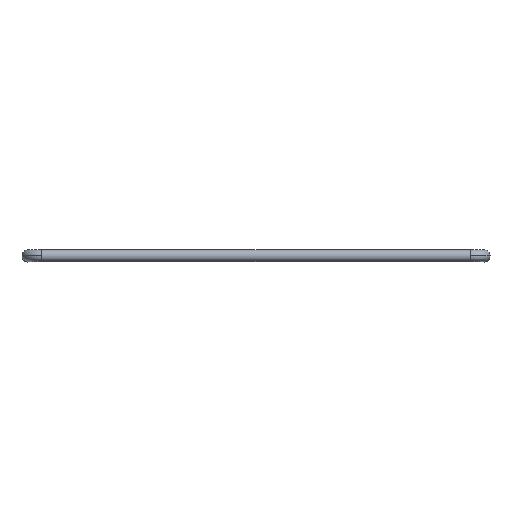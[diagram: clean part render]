
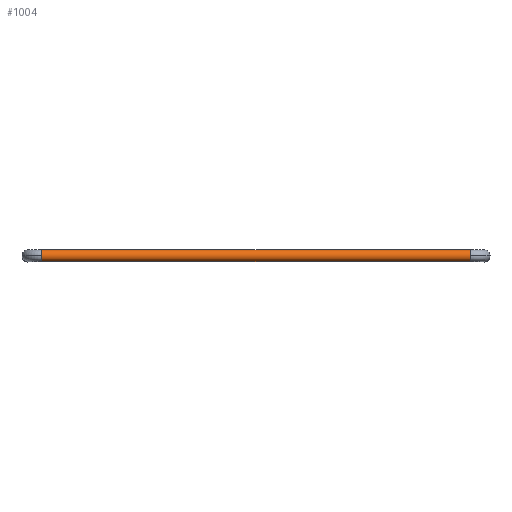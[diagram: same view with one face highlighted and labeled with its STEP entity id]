
A CAD part, top view. The second image highlights one B-rep face of the part: STEP entity #1004.
In plain terms, the highlighted cylindrical face has radius 24.15 mm (diameter 48.3 mm), a partial arc.
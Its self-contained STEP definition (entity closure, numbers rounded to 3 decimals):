
#2 = DIRECTION ( 'NONE',  ( 1., 0., 0. ) ) ;
#13 = FACE_OUTER_BOUND ( 'NONE', #947, .T. ) ;
#83 = CIRCLE ( 'NONE', #816, 24.15 ) ;
#89 = AXIS2_PLACEMENT_3D ( 'NONE', #902, #395, #470 ) ;
#95 = DIRECTION ( 'NONE',  ( 1., 0., 0. ) ) ;
#128 = VERTEX_POINT ( 'NONE', #526 ) ;
#164 = CARTESIAN_POINT ( 'NONE',  ( 10898., -71., 3495.85 ) ) ;
#191 = DIRECTION ( 'NONE',  ( 0., 1., 0. ) ) ;
#192 = ORIENTED_EDGE ( 'NONE', *, *, #410, .T. ) ;
#214 = AXIS2_PLACEMENT_3D ( 'NONE', #972, #95, #191 ) ;
#217 = VECTOR ( 'NONE', #2, 1000. ) ;
#219 = DIRECTION ( 'NONE',  ( 0., 1., 0. ) ) ;
#229 = VERTEX_POINT ( 'NONE', #293 ) ;
#230 = ORIENTED_EDGE ( 'NONE', *, *, #1128, .F. ) ;
#233 = CARTESIAN_POINT ( 'NONE',  ( 9122., -95.15, 3495.85 ) ) ;
#293 = CARTESIAN_POINT ( 'NONE',  ( 10898., -95.15, 3520. ) ) ;
#311 = CIRCLE ( 'NONE', #89, 24.15 ) ;
#320 = EDGE_CURVE ( 'NONE', #942, #128, #756, .T. ) ;
#343 = VECTOR ( 'NONE', #430, 1000. ) ;
#371 = LINE ( 'NONE', #786, #217 ) ;
#388 = EDGE_CURVE ( 'NONE', #128, #710, #480, .T. ) ;
#390 = VERTEX_POINT ( 'NONE', #164 ) ;
#395 = DIRECTION ( 'NONE',  ( 1., 0., 0. ) ) ;
#410 = EDGE_CURVE ( 'NONE', #485, #942, #452, .T. ) ;
#430 = DIRECTION ( 'NONE',  ( 1., 0., 0. ) ) ;
#447 = CYLINDRICAL_SURFACE ( 'NONE', #214, 24.15 ) ;
#452 = CIRCLE ( 'NONE', #653, 24.15 ) ;
#470 = DIRECTION ( 'NONE',  ( 0., 1., 0. ) ) ;
#479 = CARTESIAN_POINT ( 'NONE',  ( 10898., -95.15, 3495.85 ) ) ;
#480 = LINE ( 'NONE', #491, #343 ) ;
#485 = VERTEX_POINT ( 'NONE', #616 ) ;
#491 = CARTESIAN_POINT ( 'NONE',  ( 9122., -119.3, 3495.85 ) ) ;
#508 = CARTESIAN_POINT ( 'NONE',  ( 9122., -95.15, 3495.85 ) ) ;
#526 = CARTESIAN_POINT ( 'NONE',  ( 9122., -119.3, 3495.85 ) ) ;
#571 = DIRECTION ( 'NONE',  ( 1., 0., 0. ) ) ;
#584 = ORIENTED_EDGE ( 'NONE', *, *, #320, .T. ) ;
#590 = DIRECTION ( 'NONE',  ( 0., 1., 0. ) ) ;
#616 = CARTESIAN_POINT ( 'NONE',  ( 9122., -71., 3495.85 ) ) ;
#644 = EDGE_CURVE ( 'NONE', #390, #229, #83, .T. ) ;
#653 = AXIS2_PLACEMENT_3D ( 'NONE', #508, #571, #590 ) ;
#710 = VERTEX_POINT ( 'NONE', #1043 ) ;
#756 = CIRCLE ( 'NONE', #1064, 24.15 ) ;
#762 = CARTESIAN_POINT ( 'NONE',  ( 9122., -95.15, 3520. ) ) ;
#786 = CARTESIAN_POINT ( 'NONE',  ( 9122., -71., 3495.85 ) ) ;
#816 = AXIS2_PLACEMENT_3D ( 'NONE', #479, #927, #219 ) ;
#902 = CARTESIAN_POINT ( 'NONE',  ( 10898., -95.15, 3495.85 ) ) ;
#903 = ORIENTED_EDGE ( 'NONE', *, *, #388, .T. ) ;
#912 = ORIENTED_EDGE ( 'NONE', *, *, #1093, .F. ) ;
#917 = DIRECTION ( 'NONE',  ( 1., 0., 0. ) ) ;
#927 = DIRECTION ( 'NONE',  ( 1., 0., 0. ) ) ;
#942 = VERTEX_POINT ( 'NONE', #762 ) ;
#947 = EDGE_LOOP ( 'NONE', ( #192, #584, #903, #230, #1106, #912 ) ) ;
#972 = CARTESIAN_POINT ( 'NONE',  ( 9122., -95.15, 3495.85 ) ) ;
#1004 = ADVANCED_FACE ( 'NONE', ( #13 ), #447, .T. ) ;
#1043 = CARTESIAN_POINT ( 'NONE',  ( 10898., -119.3, 3495.85 ) ) ;
#1064 = AXIS2_PLACEMENT_3D ( 'NONE', #233, #917, #1110 ) ;
#1093 = EDGE_CURVE ( 'NONE', #485, #390, #371, .T. ) ;
#1106 = ORIENTED_EDGE ( 'NONE', *, *, #644, .F. ) ;
#1110 = DIRECTION ( 'NONE',  ( 0., 1., 0. ) ) ;
#1128 = EDGE_CURVE ( 'NONE', #229, #710, #311, .T. ) ;
